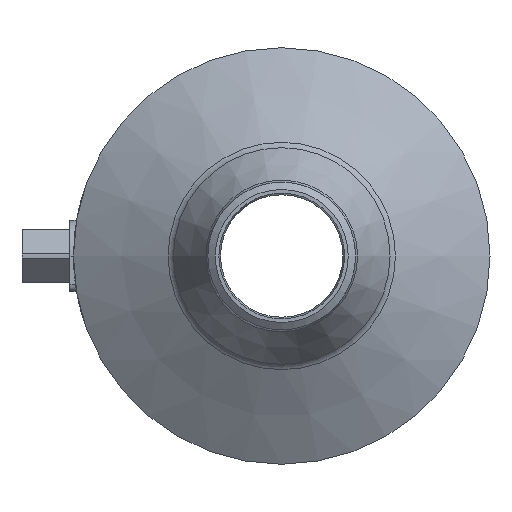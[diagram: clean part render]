
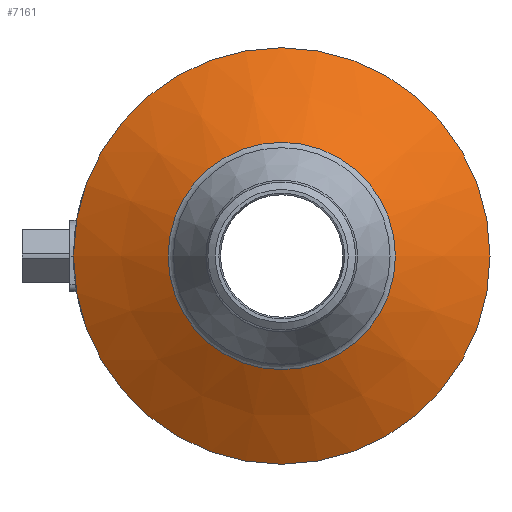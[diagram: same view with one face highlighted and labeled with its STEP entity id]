
A CAD part, left-side view. The second image highlights one B-rep face of the part: STEP entity #7161.
In plain terms, the highlighted conical face has half-angle 60 degrees and reference radius 65.696 mm.
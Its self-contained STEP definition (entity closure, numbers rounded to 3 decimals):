
#7127=CARTESIAN_POINT('',(-45.29,-46.392,0.0));
#7128=VERTEX_POINT('',#7127);
#7129=CARTESIAN_POINT('',(-45.29,0.0,0.0));
#7130=DIRECTION('',(1.0,0.0,0.0));
#7131=DIRECTION('',(0.0,-1.0,0.0));
#7132=AXIS2_PLACEMENT_3D('',#7129,#7130,#7131);
#7133=CIRCLE('',#7132,46.392);
#7134=EDGE_CURVE('',#7128,#7128,#7133,.T.);
#7142=CARTESIAN_POINT('',(-34.145,0.0,0.0));
#7143=DIRECTION('',(1.0,0.0,0.0));
#7144=DIRECTION('',(0.0,-1.0,0.0));
#7145=AXIS2_PLACEMENT_3D('',#7142,#7143,#7144);
#7146=CONICAL_SURFACE('',#7145,65.696,60.);
#7147=CARTESIAN_POINT('',(-23.,-85.0,0.0));
#7148=VERTEX_POINT('',#7147);
#7149=CARTESIAN_POINT('',(-23.,0.0,0.0));
#7150=DIRECTION('',(1.0,0.0,0.0));
#7151=DIRECTION('',(0.0,-1.0,0.0));
#7152=AXIS2_PLACEMENT_3D('',#7149,#7150,#7151);
#7153=CIRCLE('',#7152,85.0);
#7154=EDGE_CURVE('',#7148,#7148,#7153,.T.);
#7155=ORIENTED_EDGE('',*,*,#7154,.F.);
#7156=EDGE_LOOP('',(#7155));
#7157=FACE_OUTER_BOUND('',#7156,.T.);
#7158=ORIENTED_EDGE('',*,*,#7134,.T.);
#7159=EDGE_LOOP('',(#7158));
#7160=FACE_BOUND('',#7159,.T.);
#7161=ADVANCED_FACE('',(#7157,#7160),#7146,.T.);
